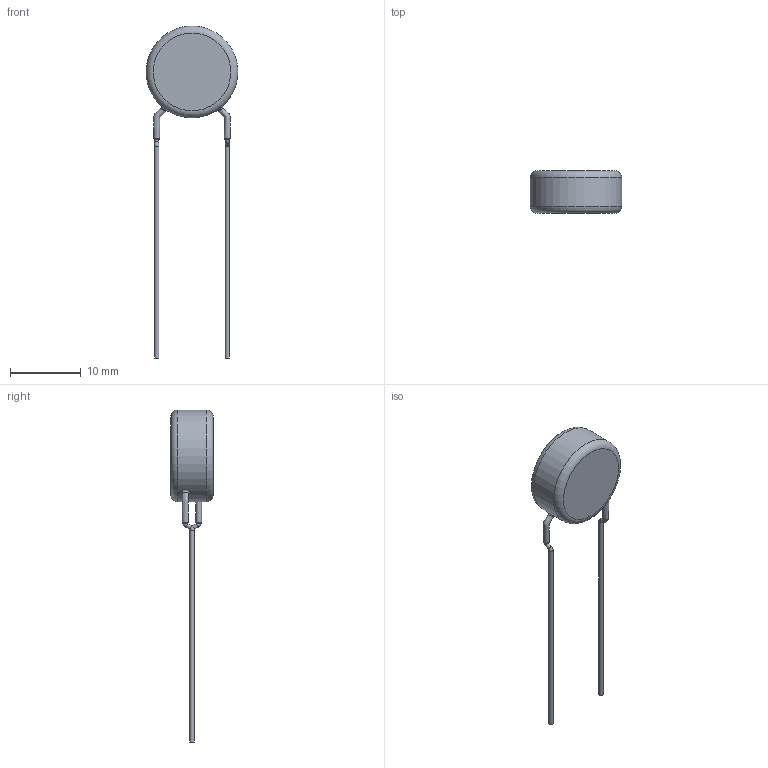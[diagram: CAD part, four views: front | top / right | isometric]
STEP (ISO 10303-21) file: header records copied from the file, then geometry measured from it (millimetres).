
FILE_DESCRIPTION(/* description */ (''),/* implementation_level */ '2;1');
FILE_NAME(/* name */ 'I:\Marketing\M6t1\3D-Models\Zchng-Werk-3\Upload for homepage\BCC\AY2\Inline Dia 0,6 LS 10\AY2682K51Y5VS63V0.stp',/* time_stamp */ '2020-11-06T09:05:54+01:00',/* author */ ('truediger'),/* organization */ (''),/* preprocessor_version */ 'ST-DEVELOPER v18',/* originating_system */ 'Autodesk Inventor 2020',/* authorisation */ '');
FILE_SCHEMA (('AUTOMOTIVE_DESIGN { 1 0 10303 214 3 1 1 }'));
Length unit declared in the file: millimetre
Products named in the file (1): Bauteil1
Bounding box: 13 x 6 x 47 mm (x, y, z)
Volume: 802.5 mm3; surface area: 617.3 mm2
Topology: 1 solids, 1 shells, 27 faces, 63 edges, 42 vertices
Faces by surface type: cylinder 9, torus 6, plane 6, bspline 6
Full cylindrical faces by diameter (mm): 0.6 x4, 13 x1
Entity records: 1920 total; most frequent: CARTESIAN_POINT 1243, DIRECTION 133, ORIENTED_EDGE 126, AXIS2_PLACEMENT_3D 64, EDGE_CURVE 63, VERTEX_POINT 42, CIRCLE 40, EDGE_LOOP 31
